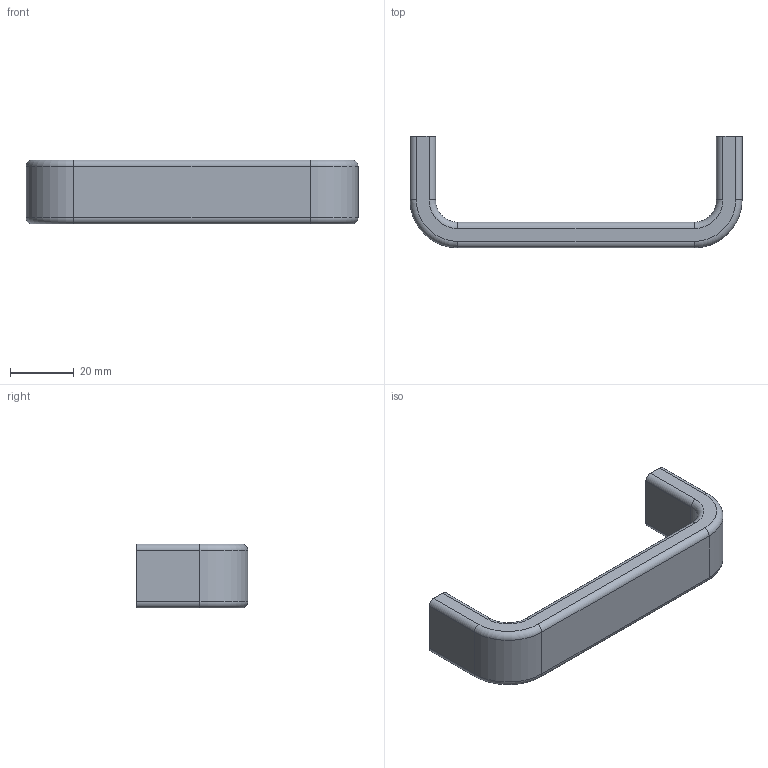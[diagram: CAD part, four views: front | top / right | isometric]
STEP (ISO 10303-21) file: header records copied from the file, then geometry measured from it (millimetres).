
FILE_DESCRIPTION( ( '' ), '1' );
FILE_NAME( 'C:/Documents and Settings/Sachin/Desktop/Sheet 10_1/stp/ 115146.stp', '2013-10-22T11:23:52', ( '' ), ( '' ), ' ', ' ', ' ' );
FILE_SCHEMA( ( 'CONFIG_CONTROL_DESIGN' ) );
Length unit declared in the file: millimetre
Products named in the file (1): 1
Bounding box: 104 x 35 x 20 mm (x, y, z)
Volume: 22866.4 mm3; surface area: 8436.4 mm2
Topology: 1 solids, 1 shells, 40 faces, 92 edges, 56 vertices
Faces by surface type: cylinder 20, plane 12, torus 8
Entity records: 1180 total; most frequent: DIRECTION 222, CARTESIAN_POINT 189, ORIENTED_EDGE 184, EDGE_CURVE 92, AXIS2_PLACEMENT_3D 89, VERTEX_POINT 56, CIRCLE 48, LINE 44
